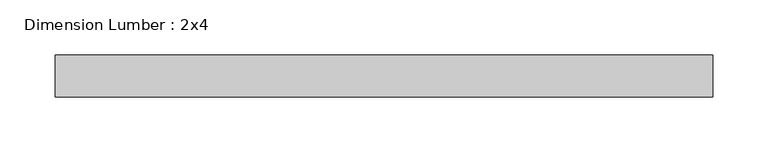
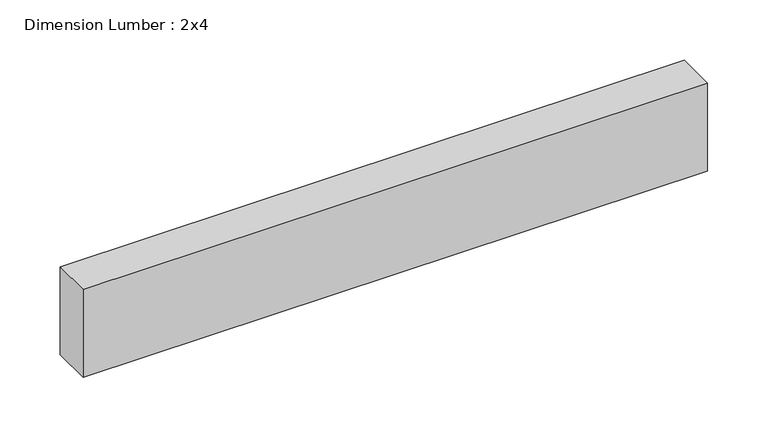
"""IFC4 building model written with IfcOpenShell, lengths in millimetres: beam geometry, Dimension Lumber : 2x4."""

from ifc_helpers import new_model, si_unit, frame, origin, place, context, project, spatial, polyline, outline, extrude, source, transform, mapped, element, save


def dimension_lumber_2x4_09187953(model_context):
    return source(origin(), model_context, "Body", "SweptSolid", [
        extrude(outline(polyline([(298.45, 19.05), (298.45, -19.05), (-298.45, -19.05), (-298.45, 19.05), (298.45, 19.05)])), frame((0.0, 0.0, -44.45), z_axis=(0.0, 0.0, 1.0), x_axis=(1.0, 0.0, 0.0)), (0.0, 0.0, 1.0), 88.9),
    ])


if __name__ == "__main__":
    model = new_model("IFC4")
    model_context = context("Model", 3, world=origin())
    ifc_project = project(units=[si_unit("LENGTHUNIT", "METRE", prefix="MILLI")], contexts=[model_context])
    site = spatial("IfcSite", under=ifc_project)
    building = spatial("IfcBuilding", under=site)
    placement = place(None, origin())
    dimension_lumber_2x4_shape = dimension_lumber_2x4_09187953(model_context)
    element("IfcBeam", 1, ObjectType="Dimension Lumber : 2x4", at=placement, inside=building, context=model_context, shape_type="MappedRepresentation", body=[
        mapped(dimension_lumber_2x4_shape, transform((0.0, 0.0, 0.0), x_axis=(1.0, 0.0, 0.0), y_axis=(0.0, 1.0, 0.0), z_axis=(0.0, 0.0, 1.0))),
    ])
    save(model, "model.ifc")
